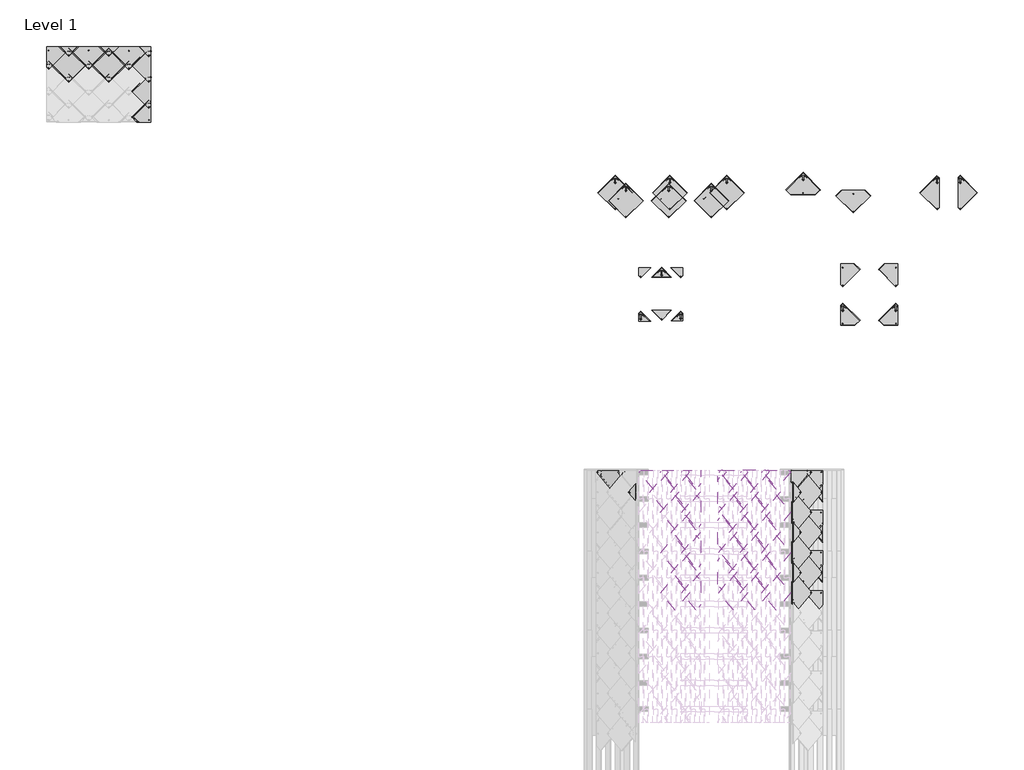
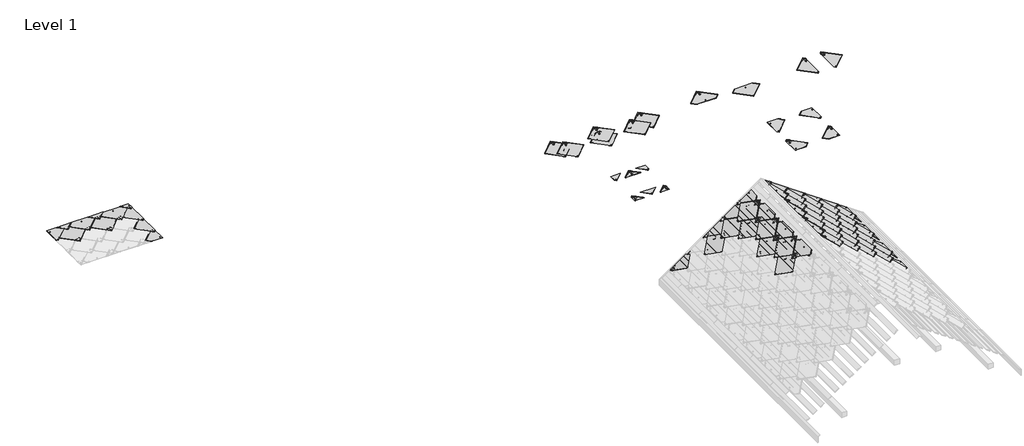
# One storey, part 6 of 6: 85 proxies.
"""IFC4 building model written with IfcOpenShell, lengths in millimetres."""

from ifc_helpers import new_model, si_unit, origin, place, context, project, spatial, transform, mapped, element, save
from components import generic_models_2e27a9fd, generic_models_13d44858, corner_bottom_big_left_black_6b9b3caf, corner_bottom_big_right_black_b907a22d, corner_bottom_small_left_black_798ab3c3, corner_bottom_small_right_black_c7c14b37, corner_top_big_left_black_ba74b52e, corner_top_big_right_black_5e162ca8, corner_top_small_left_black_1e1a13ea, corner_top_small_right_black_2f2f0a71, roofing_panels_sunstyle_tile_non_pv_shingle_non_pv_shingle_be952c39, roofing_panels_sunstyle_tile_shingle_bottom_shingle_bottom_4eb983e8, roofing_panels_sunstyle_tile_shingle_bottom_small_shingle_761d3557, roofing_panels_sunstyle_tile_shingle_left_shingle_left_black_59aad734, roofing_panels_sunstyle_tile_shingle_right_shingle_right_37b1760f, roofing_panels_sunstyle_tile_shingle_top_shingle_top_black_4c6098d4, roofing_panels_sunstyle_tile_shingle_top_small_shingle_top_a40e7fca

model = new_model("IFC4")

# Units and contexts
model_context = context("Model", 3, world=origin())
ifc_project = project(units=[si_unit("LENGTHUNIT", "METRE", prefix="MILLI")], contexts=[model_context])

# Site, building, storey
site = spatial("IfcSite", under=ifc_project)
building = spatial("IfcBuilding", under=site)
storey = spatial("IfcBuildingStorey", under=building, Name="Level 1", Elevation=0.0)

# Proxies
placement = place(None, origin())
generic_models_shape = generic_models_2e27a9fd(model_context)
element("IfcBuildingElementProxy", 1, Name="Roofing_Solar-Panels_SunStyle_Shingle-Sunstyle : Shingle-Sunstyle - Terracotta", ObjectType="Roofing_Solar-Panels_SunStyle_Shingle-Sunstyle : Shingle-Sunstyle - Terracotta", at=placement, inside=storey, context=model_context, shape_type="MappedRepresentation", body=[
    mapped(generic_models_shape, transform((1183.1620599, 12128.1358596, 0.0), x_axis=(1.0, 0.0, 0.0), y_axis=(0.0, 1.0, 0.0), z_axis=(0.0, 0.0, 1.0))),
])
element("IfcBuildingElementProxy", 2, Name="Roofing_Solar-Panels_SunStyle_Shingle-Sunstyle : Shingle Sunstyle - Black", ObjectType="Roofing_Solar-Panels_SunStyle_Shingle-Sunstyle : Shingle Sunstyle - Black", at=placement, inside=storey, context=model_context, shape_type="MappedRepresentation", body=[
    mapped(generic_models_shape, transform((409.2504616, 3258.4217699, 2231.8304944), x_axis=(0.0, -1.0, 0.0), y_axis=(0.8191520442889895, 0.0, 0.5735764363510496), z_axis=(-0.5735764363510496, 0.0, 0.8191520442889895))),
])
element("IfcBuildingElementProxy", 3, Name="Roofing_Solar-Panels_SunStyle_Shingle-Sunstyle : Shingle Sunstyle - Black", ObjectType="Roofing_Solar-Panels_SunStyle_Shingle-Sunstyle : Shingle Sunstyle - Black", at=placement, inside=storey, context=model_context, shape_type="MappedRepresentation", body=[
    mapped(generic_models_shape, transform((91.7264918, 2641.1746231, 2009.4978172), x_axis=(0.0, -1.0, 0.0), y_axis=(0.8191520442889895, 0.0, 0.5735764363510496), z_axis=(-0.5735764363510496, 0.0, 0.8191520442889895))),
])
element("IfcBuildingElementProxy", 4, Name="Roofing_Solar-Panels_SunStyle_Shingle-Sunstyle : Shingle Sunstyle - Black", ObjectType="Roofing_Solar-Panels_SunStyle_Shingle-Sunstyle : Shingle Sunstyle - Black", at=placement, inside=storey, context=model_context, shape_type="MappedRepresentation", body=[
    mapped(generic_models_shape, transform((-239.7929403, 3258.8894988, 1777.3654118), x_axis=(0.0, -1.0, 0.0), y_axis=(0.8191520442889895, 0.0, 0.5735764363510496), z_axis=(-0.5735764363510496, 0.0, 0.8191520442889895))),
])
element("IfcBuildingElementProxy", 5, Name="Roofing_Solar-Panels_SunStyle_Shingle-Sunstyle : Shingle Sunstyle - Black", ObjectType="Roofing_Solar-Panels_SunStyle_Shingle-Sunstyle : Shingle Sunstyle - Black", at=placement, inside=storey, context=model_context, shape_type="MappedRepresentation", body=[
    mapped(generic_models_shape, transform((-887.51718, 3259.014942, 1323.8240164), x_axis=(0.0, -1.0, 0.0), y_axis=(0.8191520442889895, 0.0, 0.5735764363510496), z_axis=(-0.5735764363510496, 0.0, 0.8191520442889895))),
])
element("IfcBuildingElementProxy", 6, Name="Roofing_Solar-Panels_SunStyle_Shingle-Sunstyle : Shingle Sunstyle - Black", ObjectType="Roofing_Solar-Panels_SunStyle_Shingle-Sunstyle : Shingle Sunstyle - Black", at=placement, inside=storey, context=model_context, shape_type="MappedRepresentation", body=[
    mapped(generic_models_shape, transform((3456.4537913, 3258.5608461, 1295.5334931), x_axis=(0.0, 1.0, 0.0), y_axis=(-0.8191520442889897, 0.0, 0.5735764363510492), z_axis=(0.5735764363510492, 0.0, 0.8191520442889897))),
])
element("IfcBuildingElementProxy", 7, Name="Roofing_Solar-Panels_SunStyle_Shingle-Sunstyle : Shingle Sunstyle - Black", ObjectType="Roofing_Solar-Panels_SunStyle_Shingle-Sunstyle : Shingle Sunstyle - Black", at=placement, inside=storey, context=model_context, shape_type="MappedRepresentation", body=[
    mapped(generic_models_shape, transform((4100.2290331, 3256.6260439, 844.7572159), x_axis=(0.0, 1.0, 0.0), y_axis=(-0.8191520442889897, 0.0, 0.5735764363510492), z_axis=(0.5735764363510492, 0.0, 0.8191520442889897))),
])
element("IfcBuildingElementProxy", 8, Name="Roofing_Solar-Panels_SunStyle_Shingle-Sunstyle : Shingle Sunstyle - Black", ObjectType="Roofing_Solar-Panels_SunStyle_Shingle-Sunstyle : Shingle Sunstyle - Black", at=placement, inside=storey, context=model_context, shape_type="MappedRepresentation", body=[
    mapped(generic_models_shape, transform((-1416.8379401, 12128.1358596, 0.0), x_axis=(1.0, 0.0, 0.0), y_axis=(0.0, 1.0, 0.0), z_axis=(0.0, 0.0, 1.0))),
])
element("IfcBuildingElementProxy", 9, Name="Roofing_Solar-Panels_SunStyle_Shingle-Sunstyle : Shingle Sunstyle - Black", ObjectType="Roofing_Solar-Panels_SunStyle_Shingle-Sunstyle : Shingle Sunstyle - Black", at=placement, inside=storey, context=model_context, shape_type="MappedRepresentation", body=[
    mapped(generic_models_shape, transform((-78.9861205, 12373.1387531, 0.0), x_axis=(1.0, 0.0, 0.0), y_axis=(0.0, 1.0, 0.0), z_axis=(0.0, 0.0, 1.0))),
])
element("IfcBuildingElementProxy", 10, Name="Roofing_Solar-Panels_SunStyle_Shingle-Sunstyle : Shingle Sunstyle - Black", ObjectType="Roofing_Solar-Panels_SunStyle_Shingle-Sunstyle : Shingle Sunstyle - Black", at=placement, inside=storey, context=model_context, shape_type="MappedRepresentation", body=[
    mapped(generic_models_shape, transform((2812.5194528, 3261.7572146, 1746.421171), x_axis=(0.0, 1.0, 0.0), y_axis=(-0.8191520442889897, 0.0, 0.5735764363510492), z_axis=(0.5735764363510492, 0.0, 0.8191520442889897))),
])
element("IfcBuildingElementProxy", 11, Name="Roofing_Solar-Panels_SunStyle_Shingle-Sunstyle : Shingle Sunstyle - Black", ObjectType="Roofing_Solar-Panels_SunStyle_Shingle-Sunstyle : Shingle Sunstyle - Black", at=placement, inside=storey, context=model_context, shape_type="MappedRepresentation", body=[
    mapped(generic_models_shape, transform((2152.6525765, 3260.2702918, 2208.464932), x_axis=(0.0, 1.0, 0.0), y_axis=(-0.8191520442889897, 0.0, 0.5735764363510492), z_axis=(0.5735764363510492, 0.0, 0.8191520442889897))),
])
element("IfcBuildingElementProxy", 12, Name="Roofing_Solar-Panels_SunStyle_Shingle-Sunstyle : Shingle Sunstyle - Black", ObjectType="Roofing_Solar-Panels_SunStyle_Shingle-Sunstyle : Shingle Sunstyle - Black", at=placement, inside=storey, context=model_context, shape_type="MappedRepresentation", body=[
    mapped(generic_models_shape, transform((97.0115308, 1417.8250959, 2013.1984414), x_axis=(0.0, -1.0, 0.0), y_axis=(0.8191520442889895, 0.0, 0.5735764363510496), z_axis=(-0.5735764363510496, 0.0, 0.8191520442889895))),
])
element("IfcBuildingElementProxy", 13, Name="Roofing_Solar-Panels_SunStyle_Shingle-Sunstyle : Shingle Sunstyle - Black", ObjectType="Roofing_Solar-Panels_SunStyle_Shingle-Sunstyle : Shingle Sunstyle - Black", at=placement, inside=storey, context=model_context, shape_type="MappedRepresentation", body=[
    mapped(generic_models_shape, transform((415.0917764, 2029.4111587, 2235.9206271), x_axis=(0.0, -1.0, 0.0), y_axis=(0.8191520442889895, 0.0, 0.5735764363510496), z_axis=(-0.5735764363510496, 0.0, 0.8191520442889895))),
])
element("IfcBuildingElementProxy", 14, Name="Roofing_Solar-Panels_SunStyle_Shingle-Sunstyle : Shingle Sunstyle - Black", ObjectType="Roofing_Solar-Panels_SunStyle_Shingle-Sunstyle : Shingle Sunstyle - Black", at=placement, inside=storey, context=model_context, shape_type="MappedRepresentation", body=[
    mapped(generic_models_shape, transform((416.2268047, 805.5121648, 2236.7153824), x_axis=(0.0, -1.0, 0.0), y_axis=(0.8191520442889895, 0.0, 0.5735764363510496), z_axis=(-0.5735764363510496, 0.0, 0.8191520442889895))),
])
element("IfcBuildingElementProxy", 15, Name="Roofing_Solar-Panels_SunStyle_Shingle-Sunstyle : Shingle Sunstyle - Black", ObjectType="Roofing_Solar-Panels_SunStyle_Shingle-Sunstyle : Shingle Sunstyle - Black", at=placement, inside=storey, context=model_context, shape_type="MappedRepresentation", body=[
    mapped(generic_models_shape, transform((97.0115308, 196.0732971, 2013.1984414), x_axis=(0.0, -1.0, 0.0), y_axis=(0.8191520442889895, 0.0, 0.5735764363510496), z_axis=(-0.5735764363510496, 0.0, 0.8191520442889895))),
])
element("IfcBuildingElementProxy", 16, Name="Roofing_Solar-Panels_SunStyle_Shingle-Sunstyle : Shingle Sunstyle - Black", ObjectType="Roofing_Solar-Panels_SunStyle_Shingle-Sunstyle : Shingle Sunstyle - Black", at=placement, inside=storey, context=model_context, shape_type="MappedRepresentation", body=[
    mapped(generic_models_shape, transform((3778.0193653, 2644.854273, 1070.3708542), x_axis=(0.0, 1.0, 0.0), y_axis=(-0.8191520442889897, 0.0, 0.5735764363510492), z_axis=(0.5735764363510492, 0.0, 0.8191520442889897))),
])
element("IfcBuildingElementProxy", 17, Name="Roofing_Solar-Panels_SunStyle_Shingle-Sunstyle : Shingle Sunstyle - Black", ObjectType="Roofing_Solar-Panels_SunStyle_Shingle-Sunstyle : Shingle Sunstyle - Black", at=placement, inside=storey, context=model_context, shape_type="MappedRepresentation", body=[
    mapped(generic_models_shape, transform((3134.2669178, 2646.7427989, 1521.1311707), x_axis=(0.0, 1.0, 0.0), y_axis=(-0.8191520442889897, 0.0, 0.5735764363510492), z_axis=(0.5735764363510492, 0.0, 0.8191520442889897))),
])
element("IfcBuildingElementProxy", 18, Name="Roofing_Solar-Panels_SunStyle_Shingle-Sunstyle : Shingle Sunstyle - Black", ObjectType="Roofing_Solar-Panels_SunStyle_Shingle-Sunstyle : Shingle Sunstyle - Black", at=placement, inside=storey, context=model_context, shape_type="MappedRepresentation", body=[
    mapped(generic_models_shape, transform((2490.4193004, 2649.6953776, 1971.9581258), x_axis=(0.0, 1.0, 0.0), y_axis=(-0.8191520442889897, 0.0, 0.5735764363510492), z_axis=(0.5735764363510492, 0.0, 0.8191520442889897))),
])
element("IfcBuildingElementProxy", 19, Name="Roofing_Solar-Panels_SunStyle_Shingle-Sunstyle : Shingle Sunstyle - Black", ObjectType="Roofing_Solar-Panels_SunStyle_Shingle-Sunstyle : Shingle Sunstyle - Black", at=placement, inside=storey, context=model_context, shape_type="MappedRepresentation", body=[
    mapped(generic_models_shape, transform((1831.7362128, 2650.2342465, 2433.1729891), x_axis=(0.0, 1.0, 0.0), y_axis=(-0.8191520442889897, 0.0, 0.5735764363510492), z_axis=(0.5735764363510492, 0.0, 0.8191520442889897))),
])
element("IfcBuildingElementProxy", 20, Name="Roofing_Solar-Panels_SunStyle_Shingle-Sunstyle : Shingle Sunstyle - Black", ObjectType="Roofing_Solar-Panels_SunStyle_Shingle-Sunstyle : Shingle Sunstyle - Black", at=placement, inside=storey, context=model_context, shape_type="MappedRepresentation", body=[
    mapped(generic_models_shape, transform((3456.4537913, 2034.971903, 1295.5334931), x_axis=(0.0, 1.0, 0.0), y_axis=(-0.8191520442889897, 0.0, 0.5735764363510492), z_axis=(0.5735764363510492, 0.0, 0.8191520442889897))),
])
element("IfcBuildingElementProxy", 21, Name="Roofing_Solar-Panels_SunStyle_Shingle-Sunstyle : Shingle Sunstyle - Black", ObjectType="Roofing_Solar-Panels_SunStyle_Shingle-Sunstyle : Shingle Sunstyle - Black", at=placement, inside=storey, context=model_context, shape_type="MappedRepresentation", body=[
    mapped(generic_models_shape, transform((4100.2290331, 2033.0371007, 844.7572159), x_axis=(0.0, 1.0, 0.0), y_axis=(-0.8191520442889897, 0.0, 0.5735764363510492), z_axis=(0.5735764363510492, 0.0, 0.8191520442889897))),
])
element("IfcBuildingElementProxy", 22, Name="Roofing_Solar-Panels_SunStyle_Shingle-Sunstyle : Shingle Sunstyle - Black", ObjectType="Roofing_Solar-Panels_SunStyle_Shingle-Sunstyle : Shingle Sunstyle - Black", at=placement, inside=storey, context=model_context, shape_type="MappedRepresentation", body=[
    mapped(generic_models_shape, transform((2812.5194528, 2038.1682714, 1746.421171), x_axis=(0.0, 1.0, 0.0), y_axis=(-0.8191520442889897, 0.0, 0.5735764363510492), z_axis=(0.5735764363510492, 0.0, 0.8191520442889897))),
])
element("IfcBuildingElementProxy", 23, Name="Roofing_Solar-Panels_SunStyle_Shingle-Sunstyle : Shingle Sunstyle - Black", ObjectType="Roofing_Solar-Panels_SunStyle_Shingle-Sunstyle : Shingle Sunstyle - Black", at=placement, inside=storey, context=model_context, shape_type="MappedRepresentation", body=[
    mapped(generic_models_shape, transform((2152.6525765, 2036.6813487, 2208.464932), x_axis=(0.0, 1.0, 0.0), y_axis=(-0.8191520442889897, 0.0, 0.5735764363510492), z_axis=(0.5735764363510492, 0.0, 0.8191520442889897))),
])
element("IfcBuildingElementProxy", 24, Name="Roofing_Solar-Panels_SunStyle_Shingle-Sunstyle : Shingle Sunstyle - Black", ObjectType="Roofing_Solar-Panels_SunStyle_Shingle-Sunstyle : Shingle Sunstyle - Black", at=placement, inside=storey, context=model_context, shape_type="MappedRepresentation", body=[
    mapped(generic_models_shape, transform((3778.0193653, 1421.2003837, 1070.3708542), x_axis=(0.0, 1.0, 0.0), y_axis=(-0.8191520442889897, 0.0, 0.5735764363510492), z_axis=(0.5735764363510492, 0.0, 0.8191520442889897))),
])
element("IfcBuildingElementProxy", 25, Name="Roofing_Solar-Panels_SunStyle_Shingle-Sunstyle : Shingle Sunstyle - Black", ObjectType="Roofing_Solar-Panels_SunStyle_Shingle-Sunstyle : Shingle Sunstyle - Black", at=placement, inside=storey, context=model_context, shape_type="MappedRepresentation", body=[
    mapped(generic_models_shape, transform((3134.2669178, 1423.0889097, 1521.1311707), x_axis=(0.0, 1.0, 0.0), y_axis=(-0.8191520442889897, 0.0, 0.5735764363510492), z_axis=(0.5735764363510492, 0.0, 0.8191520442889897))),
])
element("IfcBuildingElementProxy", 26, Name="Roofing_Solar-Panels_SunStyle_Shingle-Sunstyle : Shingle Sunstyle - Black", ObjectType="Roofing_Solar-Panels_SunStyle_Shingle-Sunstyle : Shingle Sunstyle - Black", at=placement, inside=storey, context=model_context, shape_type="MappedRepresentation", body=[
    mapped(generic_models_shape, transform((2490.4193004, 1426.0414883, 1971.9581258), x_axis=(0.0, 1.0, 0.0), y_axis=(-0.8191520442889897, 0.0, 0.5735764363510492), z_axis=(0.5735764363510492, 0.0, 0.8191520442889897))),
])
element("IfcBuildingElementProxy", 27, Name="Roofing_Solar-Panels_SunStyle_Shingle-Sunstyle : Shingle Sunstyle - Black", ObjectType="Roofing_Solar-Panels_SunStyle_Shingle-Sunstyle : Shingle Sunstyle - Black", at=placement, inside=storey, context=model_context, shape_type="MappedRepresentation", body=[
    mapped(generic_models_shape, transform((1831.7362128, 1426.5803572, 2433.1729891), x_axis=(0.0, 1.0, 0.0), y_axis=(-0.8191520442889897, 0.0, 0.5735764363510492), z_axis=(0.5735764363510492, 0.0, 0.8191520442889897))),
])
element("IfcBuildingElementProxy", 28, Name="Roofing_Solar-Panels_SunStyle_Shingle-Sunstyle : Shingle Sunstyle - Black", ObjectType="Roofing_Solar-Panels_SunStyle_Shingle-Sunstyle : Shingle Sunstyle - Black", at=placement, inside=storey, context=model_context, shape_type="MappedRepresentation", body=[
    mapped(generic_models_shape, transform((3456.4537913, 811.3180137, 1295.5334931), x_axis=(0.0, 1.0, 0.0), y_axis=(-0.8191520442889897, 0.0, 0.5735764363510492), z_axis=(0.5735764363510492, 0.0, 0.8191520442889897))),
])
element("IfcBuildingElementProxy", 29, Name="Roofing_Solar-Panels_SunStyle_Shingle-Sunstyle : Shingle Sunstyle - Black", ObjectType="Roofing_Solar-Panels_SunStyle_Shingle-Sunstyle : Shingle Sunstyle - Black", at=placement, inside=storey, context=model_context, shape_type="MappedRepresentation", body=[
    mapped(generic_models_shape, transform((4100.2290331, 809.3832114, 844.7572159), x_axis=(0.0, 1.0, 0.0), y_axis=(-0.8191520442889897, 0.0, 0.5735764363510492), z_axis=(0.5735764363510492, 0.0, 0.8191520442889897))),
])
element("IfcBuildingElementProxy", 30, Name="Roofing_Solar-Panels_SunStyle_Shingle-Sunstyle : Shingle Sunstyle - Black", ObjectType="Roofing_Solar-Panels_SunStyle_Shingle-Sunstyle : Shingle Sunstyle - Black", at=placement, inside=storey, context=model_context, shape_type="MappedRepresentation", body=[
    mapped(generic_models_shape, transform((2812.5194528, 814.5143821, 1746.421171), x_axis=(0.0, 1.0, 0.0), y_axis=(-0.8191520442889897, 0.0, 0.5735764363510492), z_axis=(0.5735764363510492, 0.0, 0.8191520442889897))),
])
element("IfcBuildingElementProxy", 31, Name="Roofing_Solar-Panels_SunStyle_Shingle-Sunstyle : Shingle Sunstyle - Black", ObjectType="Roofing_Solar-Panels_SunStyle_Shingle-Sunstyle : Shingle Sunstyle - Black", at=placement, inside=storey, context=model_context, shape_type="MappedRepresentation", body=[
    mapped(generic_models_shape, transform((2152.6525765, 813.0274594, 2208.464932), x_axis=(0.0, 1.0, 0.0), y_axis=(-0.8191520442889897, 0.0, 0.5735764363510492), z_axis=(0.5735764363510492, 0.0, 0.8191520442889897))),
])
element("IfcBuildingElementProxy", 32, Name="Roofing_Solar-Panels_SunStyle_Shingle-Sunstyle : Shingle Sunstyle - Black", ObjectType="Roofing_Solar-Panels_SunStyle_Shingle-Sunstyle : Shingle Sunstyle - Black", at=placement, inside=storey, context=model_context, shape_type="MappedRepresentation", body=[
    mapped(generic_models_shape, transform((3778.0193653, 197.5773776, 1070.3708542), x_axis=(0.0, 1.0, 0.0), y_axis=(-0.8191520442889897, 0.0, 0.5735764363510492), z_axis=(0.5735764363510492, 0.0, 0.8191520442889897))),
])
element("IfcBuildingElementProxy", 33, Name="Roofing_Solar-Panels_SunStyle_Shingle-Sunstyle : Shingle Sunstyle - Black", ObjectType="Roofing_Solar-Panels_SunStyle_Shingle-Sunstyle : Shingle Sunstyle - Black", at=placement, inside=storey, context=model_context, shape_type="MappedRepresentation", body=[
    mapped(generic_models_shape, transform((3134.2669178, 199.4659036, 1521.1311707), x_axis=(0.0, 1.0, 0.0), y_axis=(-0.8191520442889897, 0.0, 0.5735764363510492), z_axis=(0.5735764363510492, 0.0, 0.8191520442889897))),
])
element("IfcBuildingElementProxy", 34, Name="Roofing_Solar-Panels_SunStyle_Shingle-Sunstyle : Shingle Sunstyle - Black", ObjectType="Roofing_Solar-Panels_SunStyle_Shingle-Sunstyle : Shingle Sunstyle - Black", at=placement, inside=storey, context=model_context, shape_type="MappedRepresentation", body=[
    mapped(generic_models_shape, transform((2490.4193004, 202.4184822, 1971.9581258), x_axis=(0.0, 1.0, 0.0), y_axis=(-0.8191520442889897, 0.0, 0.5735764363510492), z_axis=(0.5735764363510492, 0.0, 0.8191520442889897))),
])
element("IfcBuildingElementProxy", 35, Name="Roofing_Solar-Panels_SunStyle_Shingle-Sunstyle : Shingle Sunstyle - Black", ObjectType="Roofing_Solar-Panels_SunStyle_Shingle-Sunstyle : Shingle Sunstyle - Black", at=placement, inside=storey, context=model_context, shape_type="MappedRepresentation", body=[
    mapped(generic_models_shape, transform((1831.7362128, 202.9573512, 2433.1729891), x_axis=(0.0, 1.0, 0.0), y_axis=(-0.8191520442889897, 0.0, 0.5735764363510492), z_axis=(0.5735764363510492, 0.0, 0.8191520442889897))),
])
element("IfcBuildingElementProxy", 36, Name="Roofing_Solar-Panels_SunStyle_Shingle-Sunstyle : Shingle Sunstyle - Silver", ObjectType="Roofing_Solar-Panels_SunStyle_Shingle-Sunstyle : Shingle Sunstyle - Silver", at=placement, inside=storey, context=model_context, shape_type="MappedRepresentation", body=[
    mapped(generic_models_shape, transform((-116.8379401, 12128.1358596, 0.0), x_axis=(1.0, 0.0, 0.0), y_axis=(0.0, 1.0, 0.0), z_axis=(0.0, 0.0, 1.0))),
])
generic_models_2_shape = generic_models_13d44858(model_context)
element("IfcBuildingElementProxy", 37, Name="Roofing_Panels_SunStyle_Tile_Shingle-Customisable : Shingle Customisable - Black", ObjectType="Roofing_Panels_SunStyle_Tile_Shingle-Customisable : Shingle Customisable - Black", at=placement, inside=storey, context=model_context, shape_type="MappedRepresentation", body=[
    mapped(generic_models_2_shape, transform((1654.7133821, 12373.1387531, 0.0), x_axis=(1.0, 0.0, 0.0), y_axis=(0.0, 1.0, 0.0), z_axis=(0.0, 0.0, 1.0))),
])
corner_bottom_big_left_black_shape = corner_bottom_big_left_black_6b9b3caf(model_context)
element("IfcBuildingElementProxy", 38, Name="Roofing_Panels_SunStyle_Tile_Corner-Bottom-Big-Left : Corner Bottom Big Left - Black", ObjectType="Roofing_Panels_SunStyle_Tile_Corner-Bottom-Big-Left : Corner Bottom Big Left - Black", at=placement, inside=storey, context=model_context, shape_type="MappedRepresentation", body=[
    mapped(corner_bottom_big_left_black_shape, transform((5177.5814, 8399.1088323, 0.0), x_axis=(1.0, 0.0, 0.0), y_axis=(0.0, 1.0, 0.0), z_axis=(0.0, 0.0, 1.0))),
])
corner_bottom_big_right_black_shape = corner_bottom_big_right_black_b907a22d(model_context)
element("IfcBuildingElementProxy", 39, Name="Roofing_Panels_SunStyle_Tile_Corner-Bottom-Big-Right : Corner Bottom Big Right - Black", ObjectType="Roofing_Panels_SunStyle_Tile_Corner-Bottom-Big-Right : Corner Bottom Big Right - Black", at=placement, inside=storey, context=model_context, shape_type="MappedRepresentation", body=[
    mapped(corner_bottom_big_right_black_shape, transform((4507.3413131, 3868.4281189, 559.6941285), x_axis=(0.0, 1.0, 0.0), y_axis=(-0.8191520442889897, 0.0, 0.5735764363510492), z_axis=(0.5735764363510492, 0.0, 0.8191520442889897))),
])
element("IfcBuildingElementProxy", 40, Name="Roofing_Panels_SunStyle_Tile_Corner-Bottom-Big-Right : Corner Bottom Big Right - Black", ObjectType="Roofing_Panels_SunStyle_Tile_Corner-Bottom-Big-Right : Corner Bottom Big Right - Black", at=placement, inside=storey, context=model_context, shape_type="MappedRepresentation", body=[
    mapped(corner_bottom_big_right_black_shape, transform((4500.2731694, 2644.7906282, 564.643296), x_axis=(0.0, 1.0, 0.0), y_axis=(-0.8191520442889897, 0.0, 0.5735764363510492), z_axis=(0.5735764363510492, 0.0, 0.8191520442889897))),
])
element("IfcBuildingElementProxy", 41, Name="Roofing_Panels_SunStyle_Tile_Corner-Bottom-Big-Right : Corner Bottom Big Right - Black", ObjectType="Roofing_Panels_SunStyle_Tile_Corner-Bottom-Big-Right : Corner Bottom Big Right - Black", at=placement, inside=storey, context=model_context, shape_type="MappedRepresentation", body=[
    mapped(corner_bottom_big_right_black_shape, transform((-15930.0622323, 14589.8354297, 0.0), x_axis=(1.0, 0.0, 0.0), y_axis=(0.0, 1.0, 0.0), z_axis=(0.0, 0.0, 1.0))),
])
element("IfcBuildingElementProxy", 42, Name="Roofing_Panels_SunStyle_Tile_Corner-Bottom-Big-Right : Corner Bottom Big Right - Black", ObjectType="Roofing_Panels_SunStyle_Tile_Corner-Bottom-Big-Right : Corner Bottom Big Right - Black", at=placement, inside=storey, context=model_context, shape_type="MappedRepresentation", body=[
    mapped(corner_bottom_big_right_black_shape, transform((6796.2093458, 8399.1088323, 0.0), x_axis=(1.0, 0.0, 0.0), y_axis=(0.0, 1.0, 0.0), z_axis=(0.0, 0.0, 1.0))),
])
element("IfcBuildingElementProxy", 43, Name="Roofing_Panels_SunStyle_Tile_Corner-Bottom-Big-Right : Corner Bottom Big Right - Black", ObjectType="Roofing_Panels_SunStyle_Tile_Corner-Bottom-Big-Right : Corner Bottom Big Right - Black", at=placement, inside=storey, context=model_context, shape_type="MappedRepresentation", body=[
    mapped(corner_bottom_big_right_black_shape, transform((4500.2731694, 1421.1367389, 564.643296), x_axis=(0.0, 1.0, 0.0), y_axis=(-0.8191520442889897, 0.0, 0.5735764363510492), z_axis=(0.5735764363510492, 0.0, 0.8191520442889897))),
])
element("IfcBuildingElementProxy", 44, Name="Roofing_Panels_SunStyle_Tile_Corner-Bottom-Big-Right : Corner Bottom Big Right - Black", ObjectType="Roofing_Panels_SunStyle_Tile_Corner-Bottom-Big-Right : Corner Bottom Big Right - Black", at=placement, inside=storey, context=model_context, shape_type="MappedRepresentation", body=[
    mapped(corner_bottom_big_right_black_shape, transform((4500.2731694, 197.5137328, 564.643296), x_axis=(0.0, 1.0, 0.0), y_axis=(-0.8191520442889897, 0.0, 0.5735764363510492), z_axis=(0.5735764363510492, 0.0, 0.8191520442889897))),
])
corner_bottom_small_left_black_shape = corner_bottom_small_left_black_798ab3c3(model_context)
element("IfcBuildingElementProxy", 45, Name="Roofing_Panels_SunStyle_Tile_Corner-Bottom-Small-Left : Corner Bottom Small Left - Black", ObjectType="Roofing_Panels_SunStyle_Tile_Corner-Bottom-Small-Left : Corner Bottom Small Left - Black", at=placement, inside=storey, context=model_context, shape_type="MappedRepresentation", body=[
    mapped(corner_bottom_small_left_black_shape, transform((-971.0115331, 8149.4851431, 0.0), x_axis=(1.0, 0.0, 0.0), y_axis=(0.0, 1.0, 0.0), z_axis=(0.0, 0.0, 1.0))),
])
corner_bottom_small_right_black_shape = corner_bottom_small_right_black_c7c14b37(model_context)
element("IfcBuildingElementProxy", 46, Name="Roofing_Panels_SunStyle_Tile_Corner-Bottom-Small-Right : Corner Bottom Small Right - Black", ObjectType="Roofing_Panels_SunStyle_Tile_Corner-Bottom-Small-Right : Corner Bottom Small Right - Black", at=placement, inside=storey, context=model_context, shape_type="MappedRepresentation", body=[
    mapped(corner_bottom_small_right_black_shape, transform((249.6658683, 8149.4851431, 0.0), x_axis=(1.0, 0.0, 0.0), y_axis=(0.0, 1.0, 0.0), z_axis=(0.0, 0.0, 1.0))),
])
corner_top_big_left_black_shape = corner_top_big_left_black_ba74b52e(model_context)
element("IfcBuildingElementProxy", 47, Name="Roofing_Panels_SunStyle_Tile_Corner-Top-Big-Left : Corner Top Big Left - Black", ObjectType="Roofing_Panels_SunStyle_Tile_Corner-Top-Big-Left : Corner Top Big Left - Black", at=placement, inside=storey, context=model_context, shape_type="MappedRepresentation", body=[
    mapped(corner_top_big_left_black_shape, transform((794.9433595, 3870.5281094, 2501.895569), x_axis=(0.0, -1.0, 0.0), y_axis=(0.8191520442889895, 0.0, 0.5735764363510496), z_axis=(-0.5735764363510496, 0.0, 0.8191520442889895))),
])
element("IfcBuildingElementProxy", 48, Name="Roofing_Panels_SunStyle_Tile_Corner-Top-Big-Left : Corner Top Big Left - Black", ObjectType="Roofing_Panels_SunStyle_Tile_Corner-Top-Big-Left : Corner Top Big Left - Black", at=placement, inside=storey, context=model_context, shape_type="MappedRepresentation", body=[
    mapped(corner_top_big_left_black_shape, transform((-18987.0196751, 16738.1410487, 0.0), x_axis=(1.0, 0.0, 0.0), y_axis=(0.0, 1.0, 0.0), z_axis=(0.0, 0.0, 1.0))),
])
element("IfcBuildingElementProxy", 49, Name="Roofing_Panels_SunStyle_Tile_Corner-Top-Big-Left : Corner Top Big Left - Black", ObjectType="Roofing_Panels_SunStyle_Tile_Corner-Top-Big-Left : Corner Top Big Left - Black", at=placement, inside=storey, context=model_context, shape_type="MappedRepresentation", body=[
    mapped(corner_top_big_left_black_shape, transform((5177.5814, 10128.3354445, 0.0), x_axis=(1.0, 0.0, 0.0), y_axis=(0.0, 1.0, 0.0), z_axis=(0.0, 0.0, 1.0))),
])
corner_top_big_right_black_shape = corner_top_big_right_black_5e162ca8(model_context)
element("IfcBuildingElementProxy", 50, Name="Roofing_Panels_SunStyle_Tile_Corner-Top-Big-Right : Corner Top Big Right - Black", ObjectType="Roofing_Panels_SunStyle_Tile_Corner-Top-Big-Right : Corner Top Big Right - Black", at=placement, inside=storey, context=model_context, shape_type="MappedRepresentation", body=[
    mapped(corner_top_big_right_black_shape, transform((6796.2093458, 10128.3354445, 0.0), x_axis=(1.0, 0.0, 0.0), y_axis=(0.0, 1.0, 0.0), z_axis=(0.0, 0.0, 1.0))),
])
corner_top_small_left_black_shape = corner_top_small_left_black_1e1a13ea(model_context)
element("IfcBuildingElementProxy", 51, Name="Roofing_Panels_SunStyle_Tile_Corner-Top-Small-Left : Corner Top Small Left - Black", ObjectType="Roofing_Panels_SunStyle_Tile_Corner-Top-Small-Left : Corner Top Small Left - Black", at=placement, inside=storey, context=model_context, shape_type="MappedRepresentation", body=[
    mapped(corner_top_small_left_black_shape, transform((-971.0115331, 10396.2161275, 0.0), x_axis=(1.0, 0.0, 0.0), y_axis=(0.0, 1.0, 0.0), z_axis=(0.0, 0.0, 1.0))),
])
corner_top_small_right_black_shape = corner_top_small_right_black_2f2f0a71(model_context)
element("IfcBuildingElementProxy", 52, Name="Roofing_Panels_SunStyle_Tile_Corner-Top-Small-Right : Corner Top Small Right - Black", ObjectType="Roofing_Panels_SunStyle_Tile_Corner-Top-Small-Right : Corner Top Small Right - Black", at=placement, inside=storey, context=model_context, shape_type="MappedRepresentation", body=[
    mapped(corner_top_small_right_black_shape, transform((1114.0932359, 3871.2398919, 2935.6720112), x_axis=(0.0, 1.0, 0.0), y_axis=(-0.8191520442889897, 0.0, 0.5735764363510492), z_axis=(0.5735764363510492, 0.0, 0.8191520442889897))),
])
element("IfcBuildingElementProxy", 53, Name="Roofing_Panels_SunStyle_Tile_Corner-Top-Small-Right : Corner Top Small Right - Black", ObjectType="Roofing_Panels_SunStyle_Tile_Corner-Top-Small-Right : Corner Top Small Right - Black", at=placement, inside=storey, context=model_context, shape_type="MappedRepresentation", body=[
    mapped(corner_top_small_right_black_shape, transform((-15930.0622323, 17128.7817705, 0.0), x_axis=(1.0, 0.0, 0.0), y_axis=(0.0, 1.0, 0.0), z_axis=(0.0, 0.0, 1.0))),
])
element("IfcBuildingElementProxy", 54, Name="Roofing_Panels_SunStyle_Tile_Corner-Top-Small-Right : Corner Top Small Right - Black", ObjectType="Roofing_Panels_SunStyle_Tile_Corner-Top-Small-Right : Corner Top Small Right - Black", at=placement, inside=storey, context=model_context, shape_type="MappedRepresentation", body=[
    mapped(corner_top_small_right_black_shape, transform((249.6658683, 10396.2161275, 0.0), x_axis=(1.0, 0.0, 0.0), y_axis=(0.0, 1.0, 0.0), z_axis=(0.0, 0.0, 1.0))),
])
roofing_panels_sunstyle_tile_non_pv_shingle_non_pv_shingle_shape = roofing_panels_sunstyle_tile_non_pv_shingle_non_pv_shingle_be952c39(model_context)
element("IfcBuildingElementProxy", 55, Name="Roofing_Panels_SunStyle_Tile_Non-PV-Shingle : Non PV Shingle - Black", ObjectType="Roofing_Panels_SunStyle_Tile_Non-PV-Shingle : Non PV Shingle - Black", at=placement, inside=storey, context=model_context, shape_type="MappedRepresentation", body=[
    mapped(roofing_panels_sunstyle_tile_non_pv_shingle_non_pv_shingle_shape, transform((-18375.6614882, 16253.9473656, 0.0), x_axis=(1.0, 0.0, 0.0), y_axis=(0.0, 1.0, 0.0), z_axis=(0.0, 0.0, 1.0))),
])
element("IfcBuildingElementProxy", 56, Name="Roofing_Panels_SunStyle_Tile_Non-PV-Shingle : Non PV Shingle - Black", ObjectType="Roofing_Panels_SunStyle_Tile_Non-PV-Shingle : Non PV Shingle - Black", at=placement, inside=storey, context=model_context, shape_type="MappedRepresentation", body=[
    mapped(roofing_panels_sunstyle_tile_non_pv_shingle_non_pv_shingle_shape, transform((-17152.8625549, 16254.5705537, 0.0), x_axis=(1.0, 0.0, 0.0), y_axis=(0.0, 1.0, 0.0), z_axis=(0.0, 0.0, 1.0))),
])
element("IfcBuildingElementProxy", 57, Name="Roofing_Panels_SunStyle_Tile_Non-PV-Shingle : Non PV Shingle - Black", ObjectType="Roofing_Panels_SunStyle_Tile_Non-PV-Shingle : Non PV Shingle - Black", at=placement, inside=storey, context=model_context, shape_type="MappedRepresentation", body=[
    mapped(roofing_panels_sunstyle_tile_non_pv_shingle_non_pv_shingle_shape, transform((-1749.4382965, 12373.1387531, 0.0), x_axis=(1.0, 0.0, 0.0), y_axis=(0.0, 1.0, 0.0), z_axis=(0.0, 0.0, 1.0))),
])
roofing_panels_sunstyle_tile_shingle_bottom_shingle_bottom_shape = roofing_panels_sunstyle_tile_shingle_bottom_shingle_bottom_4eb983e8(model_context)
element("IfcBuildingElementProxy", 58, Name="Roofing_Panels_SunStyle_Tile_Shingle-Bottom : Shingle Bottom - Black", ObjectType="Roofing_Panels_SunStyle_Tile_Shingle-Bottom : Shingle Bottom - Black", at=placement, inside=storey, context=model_context, shape_type="MappedRepresentation", body=[
    mapped(roofing_panels_sunstyle_tile_shingle_bottom_shingle_bottom_shape, transform((3972.6793706, 12373.1387531, 0.0), x_axis=(1.0, 0.0, 0.0), y_axis=(0.0, 1.0, 0.0), z_axis=(0.0, 0.0, 1.0))),
])
roofing_panels_sunstyle_tile_shingle_bottom_small_shingle_shape = roofing_panels_sunstyle_tile_shingle_bottom_small_shingle_761d3557(model_context)
element("IfcBuildingElementProxy", 59, Name="Roofing_Panels_SunStyle_Tile_Shingle-Bottom-Small : Shingle Bottom Small - Black", ObjectType="Roofing_Panels_SunStyle_Tile_Shingle-Bottom-Small : Shingle Bottom Small - Black", at=placement, inside=storey, context=model_context, shape_type="MappedRepresentation", body=[
    mapped(roofing_panels_sunstyle_tile_shingle_bottom_small_shingle_shape, transform((4837.1677383, 3256.7408774, 328.7471793), x_axis=(0.0, 1.0, 0.0), y_axis=(-0.8191520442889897, 0.0, 0.5735764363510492), z_axis=(0.5735764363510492, 0.0, 0.8191520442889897))),
])
element("IfcBuildingElementProxy", 60, Name="Roofing_Panels_SunStyle_Tile_Shingle-Bottom-Small : Shingle Bottom Small - Black", ObjectType="Roofing_Panels_SunStyle_Tile_Shingle-Bottom-Small : Shingle Bottom Small - Black", at=placement, inside=storey, context=model_context, shape_type="MappedRepresentation", body=[
    mapped(roofing_panels_sunstyle_tile_shingle_bottom_small_shingle_shape, transform((-334.311905, 9468.9432071, 0.0), x_axis=(1.0, 0.0, 0.0), y_axis=(0.0, 1.0, 0.0), z_axis=(0.0, 0.0, 1.0))),
])
element("IfcBuildingElementProxy", 61, Name="Roofing_Panels_SunStyle_Tile_Shingle-Bottom-Small : Shingle Bottom Small - Black", ObjectType="Roofing_Panels_SunStyle_Tile_Shingle-Bottom-Small : Shingle Bottom Small - Black", at=placement, inside=storey, context=model_context, shape_type="MappedRepresentation", body=[
    mapped(roofing_panels_sunstyle_tile_shingle_bottom_small_shingle_shape, transform((4829.9676072, 2033.1572953, 333.7887654), x_axis=(0.0, 1.0, 0.0), y_axis=(-0.8191520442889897, 0.0, 0.5735764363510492), z_axis=(0.5735764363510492, 0.0, 0.8191520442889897))),
])
element("IfcBuildingElementProxy", 62, Name="Roofing_Panels_SunStyle_Tile_Shingle-Bottom-Small : Shingle Bottom Small - Black", ObjectType="Roofing_Panels_SunStyle_Tile_Shingle-Bottom-Small : Shingle Bottom Small - Black", at=placement, inside=storey, context=model_context, shape_type="MappedRepresentation", body=[
    mapped(roofing_panels_sunstyle_tile_shingle_bottom_small_shingle_shape, transform((4829.9676072, 809.503406, 333.7887654), x_axis=(0.0, 1.0, 0.0), y_axis=(-0.8191520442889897, 0.0, 0.5735764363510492), z_axis=(0.5735764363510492, 0.0, 0.8191520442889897))),
])
roofing_panels_sunstyle_tile_shingle_left_shingle_left_black_shape = roofing_panels_sunstyle_tile_shingle_left_shingle_left_black_59aad734(model_context)
element("IfcBuildingElementProxy", 63, Name="Roofing_Panels_SunStyle_Tile_Shingle-Left : Shingle Left - Black", ObjectType="Roofing_Panels_SunStyle_Tile_Shingle-Left : Shingle Left - Black", at=placement, inside=storey, context=model_context, shape_type="MappedRepresentation", body=[
    mapped(roofing_panels_sunstyle_tile_shingle_left_shingle_left_black_shape, transform((-569.2534253, 3870.0951942, 1546.6746966), x_axis=(0.0, -1.0, 0.0), y_axis=(0.8191520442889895, 0.0, 0.5735764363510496), z_axis=(-0.5735764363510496, 0.0, 0.8191520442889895))),
])
element("IfcBuildingElementProxy", 64, Name="Roofing_Panels_SunStyle_Tile_Shingle-Left : Shingle Left - Black", ObjectType="Roofing_Panels_SunStyle_Tile_Shingle-Left : Shingle Left - Black", at=placement, inside=storey, context=model_context, shape_type="MappedRepresentation", body=[
    mapped(roofing_panels_sunstyle_tile_shingle_left_shingle_left_black_shape, transform((-1864.5148446, 3870.6849156, 639.7228869), x_axis=(0.0, -1.0, 0.0), y_axis=(0.8191520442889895, 0.0, 0.5735764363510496), z_axis=(-0.5735764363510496, 0.0, 0.8191520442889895))),
])
element("IfcBuildingElementProxy", 65, Name="Roofing_Panels_SunStyle_Tile_Shingle-Left : Shingle Left - Black", ObjectType="Roofing_Panels_SunStyle_Tile_Shingle-Left : Shingle Left - Black", at=placement, inside=storey, context=model_context, shape_type="MappedRepresentation", body=[
    mapped(roofing_panels_sunstyle_tile_shingle_left_shingle_left_black_shape, transform((8750.9832887, 12373.1387531, 0.0), x_axis=(1.0, 0.0, 0.0), y_axis=(0.0, 1.0, 0.0), z_axis=(0.0, 0.0, 1.0))),
])
element("IfcBuildingElementProxy", 66, Name="Roofing_Panels_SunStyle_Tile_Shingle-Left : Shingle Left - Black", ObjectType="Roofing_Panels_SunStyle_Tile_Shingle-Left : Shingle Left - Black", at=placement, inside=storey, context=model_context, shape_type="MappedRepresentation", body=[
    mapped(roofing_panels_sunstyle_tile_shingle_left_shingle_left_black_shape, transform((79.0376099, 3870.2161309, 2000.6129665), x_axis=(0.0, -1.0, 0.0), y_axis=(0.8191520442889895, 0.0, 0.5735764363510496), z_axis=(-0.5735764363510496, 0.0, 0.8191520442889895))),
])
roofing_panels_sunstyle_tile_shingle_right_shingle_right_shape = roofing_panels_sunstyle_tile_shingle_right_shingle_right_37b1760f(model_context)
element("IfcBuildingElementProxy", 67, Name="Roofing_Panels_SunStyle_Tile_Shingle-Right : Shingle Right - Black", ObjectType="Roofing_Panels_SunStyle_Tile_Shingle-Right : Shingle Right - Black", at=placement, inside=storey, context=model_context, shape_type="MappedRepresentation", body=[
    mapped(roofing_panels_sunstyle_tile_shingle_right_shingle_right_shape, transform((1840.0419518, 3871.4366724, 2427.357248), x_axis=(0.0, 1.0, 0.0), y_axis=(-0.8191520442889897, 0.0, 0.5735764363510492), z_axis=(0.5735764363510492, 0.0, 0.8191520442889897))),
])
element("IfcBuildingElementProxy", 68, Name="Roofing_Panels_SunStyle_Tile_Shingle-Right : Shingle Right - Black", ObjectType="Roofing_Panels_SunStyle_Tile_Shingle-Right : Shingle Right - Black", at=placement, inside=storey, context=model_context, shape_type="MappedRepresentation", body=[
    mapped(roofing_panels_sunstyle_tile_shingle_right_shingle_right_shape, transform((2500.0147777, 3873.6267161, 1965.2393003), x_axis=(0.0, 1.0, 0.0), y_axis=(-0.8191520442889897, 0.0, 0.5735764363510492), z_axis=(0.5735764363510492, 0.0, 0.8191520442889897))),
])
element("IfcBuildingElementProxy", 69, Name="Roofing_Panels_SunStyle_Tile_Shingle-Right : Shingle Right - Black", ObjectType="Roofing_Panels_SunStyle_Tile_Shingle-Right : Shingle Right - Black", at=placement, inside=storey, context=model_context, shape_type="MappedRepresentation", body=[
    mapped(roofing_panels_sunstyle_tile_shingle_right_shingle_right_shape, transform((3144.2919007, 3871.0931486, 1514.111602), x_axis=(0.0, 1.0, 0.0), y_axis=(-0.8191520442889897, 0.0, 0.5735764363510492), z_axis=(0.5735764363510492, 0.0, 0.8191520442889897))),
])
element("IfcBuildingElementProxy", 70, Name="Roofing_Panels_SunStyle_Tile_Shingle-Right : Shingle Right - Black", ObjectType="Roofing_Panels_SunStyle_Tile_Shingle-Right : Shingle Right - Black", at=placement, inside=storey, context=model_context, shape_type="MappedRepresentation", body=[
    mapped(roofing_panels_sunstyle_tile_shingle_right_shingle_right_shape, transform((3787.3988846, 3868.3978761, 1063.8032441), x_axis=(0.0, 1.0, 0.0), y_axis=(-0.8191520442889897, 0.0, 0.5735764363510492), z_axis=(0.5735764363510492, 0.0, 0.8191520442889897))),
])
element("IfcBuildingElementProxy", 71, Name="Roofing_Panels_SunStyle_Tile_Shingle-Right : Shingle Right - Black", ObjectType="Roofing_Panels_SunStyle_Tile_Shingle-Right : Shingle Right - Black", at=placement, inside=storey, context=model_context, shape_type="MappedRepresentation", body=[
    mapped(roofing_panels_sunstyle_tile_shingle_right_shingle_right_shape, transform((-15930.0622323, 15464.0620489, 0.0), x_axis=(1.0, 0.0, 0.0), y_axis=(0.0, 1.0, 0.0), z_axis=(0.0, 0.0, 1.0))),
])
element("IfcBuildingElementProxy", 72, Name="Roofing_Panels_SunStyle_Tile_Shingle-Right : Shingle Right - Black", ObjectType="Roofing_Panels_SunStyle_Tile_Shingle-Right : Shingle Right - Black", at=placement, inside=storey, context=model_context, shape_type="MappedRepresentation", body=[
    mapped(roofing_panels_sunstyle_tile_shingle_right_shingle_right_shape, transform((-15930.1515892, 16252.1363486, 0.0), x_axis=(1.0, 0.0, 0.0), y_axis=(0.0, 1.0, 0.0), z_axis=(0.0, 0.0, 1.0))),
])
element("IfcBuildingElementProxy", 73, Name="Roofing_Panels_SunStyle_Tile_Shingle-Right : Shingle Right - Black", ObjectType="Roofing_Panels_SunStyle_Tile_Shingle-Right : Shingle Right - Black", at=placement, inside=storey, context=model_context, shape_type="MappedRepresentation", body=[
    mapped(roofing_panels_sunstyle_tile_shingle_right_shingle_right_shape, transform((8048.5042622, 12373.1387531, 0.0), x_axis=(1.0, 0.0, 0.0), y_axis=(0.0, 1.0, 0.0), z_axis=(0.0, 0.0, 1.0))),
])
roofing_panels_sunstyle_tile_shingle_top_shingle_top_black_shape = roofing_panels_sunstyle_tile_shingle_top_shingle_top_black_4c6098d4(model_context)
element("IfcBuildingElementProxy", 74, Name="Roofing_Panels_SunStyle_Tile_Shingle-Top : Shingle Top - Black", ObjectType="Roofing_Panels_SunStyle_Tile_Shingle-Top : Shingle Top - Black", at=placement, inside=storey, context=model_context, shape_type="MappedRepresentation", body=[
    mapped(roofing_panels_sunstyle_tile_shingle_top_shingle_top_black_shape, transform((800.7765325, 2641.0803094, 2505.9800007), x_axis=(0.0, -1.0, 0.0), y_axis=(0.8191520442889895, 0.0, 0.5735764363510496), z_axis=(-0.5735764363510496, 0.0, 0.8191520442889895))),
])
element("IfcBuildingElementProxy", 75, Name="Roofing_Panels_SunStyle_Tile_Shingle-Top : Shingle Top - Black", ObjectType="Roofing_Panels_SunStyle_Tile_Shingle-Top : Shingle Top - Black", at=placement, inside=storey, context=model_context, shape_type="MappedRepresentation", body=[
    mapped(roofing_panels_sunstyle_tile_shingle_top_shingle_top_black_shape, transform((1429.256916, 3263.0387321, 2714.9920266), x_axis=(0.0, 1.0, 0.0), y_axis=(-0.8191520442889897, 0.0, 0.5735764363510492), z_axis=(0.5735764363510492, 0.0, 0.8191520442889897))),
])
element("IfcBuildingElementProxy", 76, Name="Roofing_Panels_SunStyle_Tile_Shingle-Top : Shingle Top - Black", ObjectType="Roofing_Panels_SunStyle_Tile_Shingle-Top : Shingle Top - Black", at=placement, inside=storey, context=model_context, shape_type="MappedRepresentation", body=[
    mapped(roofing_panels_sunstyle_tile_shingle_top_shingle_top_black_shape, transform((-17764.4246151, 16738.2015305, 0.0), x_axis=(1.0, 0.0, 0.0), y_axis=(0.0, 1.0, 0.0), z_axis=(0.0, 0.0, 1.0))),
])
element("IfcBuildingElementProxy", 77, Name="Roofing_Panels_SunStyle_Tile_Shingle-Top : Shingle Top - Black", ObjectType="Roofing_Panels_SunStyle_Tile_Shingle-Top : Shingle Top - Black", at=placement, inside=storey, context=model_context, shape_type="MappedRepresentation", body=[
    mapped(roofing_panels_sunstyle_tile_shingle_top_shingle_top_black_shape, transform((-16541.4622323, 16730.3934013, 0.0), x_axis=(1.0, 0.0, 0.0), y_axis=(0.0, 1.0, 0.0), z_axis=(0.0, 0.0, 1.0))),
])
element("IfcBuildingElementProxy", 78, Name="Roofing_Panels_SunStyle_Tile_Shingle-Top : Shingle Top - Black", ObjectType="Roofing_Panels_SunStyle_Tile_Shingle-Top : Shingle Top - Black", at=placement, inside=storey, context=model_context, shape_type="MappedRepresentation", body=[
    mapped(roofing_panels_sunstyle_tile_shingle_top_shingle_top_black_shape, transform((5499.6084742, 12373.1387531, 0.0), x_axis=(1.0, 0.0, 0.0), y_axis=(0.0, 1.0, 0.0), z_axis=(0.0, 0.0, 1.0))),
])
element("IfcBuildingElementProxy", 79, Name="Roofing_Panels_SunStyle_Tile_Shingle-Top : Shingle Top - Black", ObjectType="Roofing_Panels_SunStyle_Tile_Shingle-Top : Shingle Top - Black", at=placement, inside=storey, context=model_context, shape_type="MappedRepresentation", body=[
    mapped(roofing_panels_sunstyle_tile_shingle_top_shingle_top_black_shape, transform((802.3258537, 1417.5450723, 2507.064847), x_axis=(0.0, -1.0, 0.0), y_axis=(0.8191520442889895, 0.0, 0.5735764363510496), z_axis=(-0.5735764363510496, 0.0, 0.8191520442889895))),
])
element("IfcBuildingElementProxy", 80, Name="Roofing_Panels_SunStyle_Tile_Shingle-Top : Shingle Top - Black", ObjectType="Roofing_Panels_SunStyle_Tile_Shingle-Top : Shingle Top - Black", at=placement, inside=storey, context=model_context, shape_type="MappedRepresentation", body=[
    mapped(roofing_panels_sunstyle_tile_shingle_top_shingle_top_black_shape, transform((803.2352786, 193.5746982, 2507.7016332), x_axis=(0.0, -1.0, 0.0), y_axis=(0.8191520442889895, 0.0, 0.5735764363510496), z_axis=(-0.5735764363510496, 0.0, 0.8191520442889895))),
])
element("IfcBuildingElementProxy", 81, Name="Roofing_Panels_SunStyle_Tile_Shingle-Top : Shingle Top - Black", ObjectType="Roofing_Panels_SunStyle_Tile_Shingle-Top : Shingle Top - Black", at=placement, inside=storey, context=model_context, shape_type="MappedRepresentation", body=[
    mapped(roofing_panels_sunstyle_tile_shingle_top_shingle_top_black_shape, transform((1429.256916, 2039.4497889, 2714.9920266), x_axis=(0.0, 1.0, 0.0), y_axis=(-0.8191520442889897, 0.0, 0.5735764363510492), z_axis=(0.5735764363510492, 0.0, 0.8191520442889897))),
])
element("IfcBuildingElementProxy", 82, Name="Roofing_Panels_SunStyle_Tile_Shingle-Top : Shingle Top - Black", ObjectType="Roofing_Panels_SunStyle_Tile_Shingle-Top : Shingle Top - Black", at=placement, inside=storey, context=model_context, shape_type="MappedRepresentation", body=[
    mapped(roofing_panels_sunstyle_tile_shingle_top_shingle_top_black_shape, transform((1429.256916, 815.7958996, 2714.9920266), x_axis=(0.0, 1.0, 0.0), y_axis=(-0.8191520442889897, 0.0, 0.5735764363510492), z_axis=(0.5735764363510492, 0.0, 0.8191520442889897))),
])
roofing_panels_sunstyle_tile_shingle_top_small_shingle_top_shape = roofing_panels_sunstyle_tile_shingle_top_small_shingle_top_a40e7fca(model_context)
element("IfcBuildingElementProxy", 83, Name="Roofing_Panels_SunStyle_Tile_Shingle-Top-Small : Shingle Top Small - Black", ObjectType="Roofing_Panels_SunStyle_Tile_Shingle-Top-Small : Shingle Top Small - Black", at=placement, inside=storey, context=model_context, shape_type="MappedRepresentation", body=[
    mapped(roofing_panels_sunstyle_tile_shingle_top_small_shingle_top_shape, transform((-18375.640204, 17133.0299865, 0.0), x_axis=(1.0, 0.0, 0.0), y_axis=(0.0, 1.0, 0.0), z_axis=(0.0, 0.0, 1.0))),
])
element("IfcBuildingElementProxy", 84, Name="Roofing_Panels_SunStyle_Tile_Shingle-Top-Small : Shingle Top Small - Black", ObjectType="Roofing_Panels_SunStyle_Tile_Shingle-Top-Small : Shingle Top Small - Black", at=placement, inside=storey, context=model_context, shape_type="MappedRepresentation", body=[
    mapped(roofing_panels_sunstyle_tile_shingle_top_small_shingle_top_shape, transform((-17152.8622323, 17131.1186094, 0.0), x_axis=(1.0, 0.0, 0.0), y_axis=(0.0, 1.0, 0.0), z_axis=(0.0, 0.0, 1.0))),
])
element("IfcBuildingElementProxy", 85, Name="Roofing_Panels_SunStyle_Tile_Shingle-Top-Small : Shingle Top Small - Black", ObjectType="Roofing_Panels_SunStyle_Tile_Shingle-Top-Small : Shingle Top Small - Black", at=placement, inside=storey, context=model_context, shape_type="MappedRepresentation", body=[
    mapped(roofing_panels_sunstyle_tile_shingle_top_small_shingle_top_shape, transform((-334.311905, 9108.9432071, 0.0), x_axis=(1.0, 0.0, 0.0), y_axis=(0.0, 1.0, 0.0), z_axis=(0.0, 0.0, 1.0))),
])

save(model, "model.ifc")
